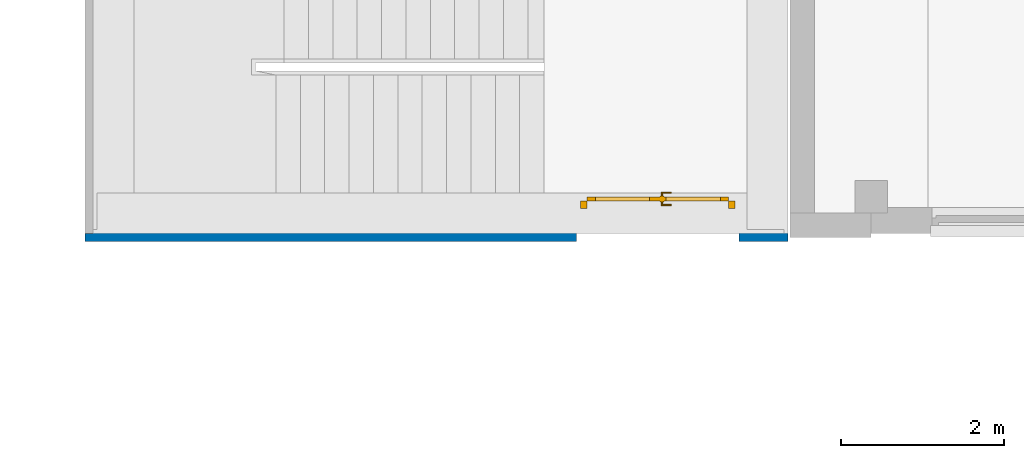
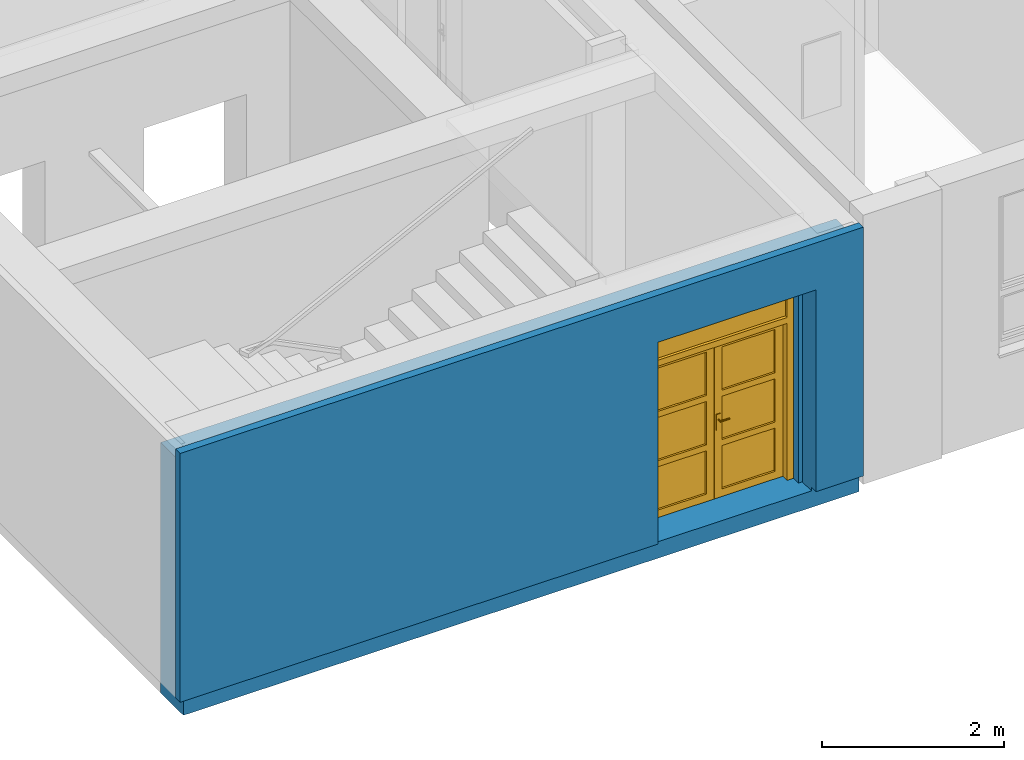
# One storey, part 61 of 140: 1 door, 1 wall, 1 opening.
"""IFC4 building model written with IfcOpenShell, lengths in metres."""

import ifcopenshell
import ifcopenshell.guid

model = None  # the IFC model being written
_history = None  # IfcOwnerHistory: only IFC2X3 demands one
_inside = {}  # id of a spatial element -> (the spatial element, [elements in it])
_under = {}  # id of a project, library or spatial element -> (it, [spatial elements below it])
_declared = {}  # id of a project -> (the project, [libraries it declares])
_typed = {}  # id of a type object -> (the type object, [elements of that type])
_made_of = {}  # id of a material, layer set ... -> (it, [elements and type objects made of it])


def new_model(schema):
    """Start an empty IFC model of exactly this schema.

    Asked for "IFC4X3", IfcOpenShell would pick the latest addendum, in which some entities
    have other attributes; the version numbers below select the first issue.
    IFC2X3 requires an IfcOwnerHistory on every rooted entity: one is made here for all.
    """
    global model, _history
    if schema == "IFC4X3":
        model = ifcopenshell.file(schema_version=(4, 3, 0, 0))
    else:
        model = ifcopenshell.file(schema=schema)
    _inside.clear()
    _under.clear()
    _declared.clear()
    _typed.clear()
    _made_of.clear()
    _history = None
    if model.schema == "IFC2X3":
        org = make("IfcOrganization", Name="unknown")
        user = make(
            "IfcPersonAndOrganization",
            ThePerson=make("IfcPerson", FamilyName="unknown"),
            TheOrganization=org,
        )
        app = make(
            "IfcApplication",
            ApplicationDeveloper=org,
            Version="unknown",
            ApplicationFullName="unknown",
            ApplicationIdentifier="unknown",
        )
        _history = make(
            "IfcOwnerHistory",
            OwningUser=user,
            OwningApplication=app,
            ChangeAction="ADDED",
            CreationDate=0,
        )
    return model


def make(cls, **values):
    """One entity of the class cls with the attributes given. An attribute that is None is left unset."""
    return model.create_entity(
        cls, **{name: value for name, value in values.items() if value is not None}
    )


def entity(cls, *values):
    """Any entity or typed value of the class cls, its attributes in the order of the schema. None: left unset."""
    e = model.create_entity(cls)
    for i, value in enumerate(values):
        if value is not None:
            e[i] = value
    return e


def rooted(cls, **values):
    """An entity with a GlobalId (a new one), such as an element, a storey or a relation."""
    return make(cls, GlobalId=ifcopenshell.guid.new(), OwnerHistory=_history, **values)


def si_unit(unit_type, name, prefix=None):
    """IfcSIUnit, for example si_unit("LENGTHUNIT", "METRE", prefix="MILLI")."""
    return make("IfcSIUnit", UnitType=unit_type, Prefix=prefix, Name=name)


def converted_unit(unit_type, name, factor, base, dimensions=None, offset=None):
    """IfcConversionBasedUnit, such as the inch: factor (a typed value) times the base unit."""
    return make(
        "IfcConversionBasedUnit"
        if offset is None
        else "IfcConversionBasedUnitWithOffset",
        ConversionOffset=offset,
        Dimensions=None
        if dimensions is None
        else entity("IfcDimensionalExponents", *dimensions),
        UnitType=unit_type,
        Name=name,
        ConversionFactor=make(
            "IfcMeasureWithUnit", ValueComponent=factor, UnitComponent=base
        ),
    )


def derived_unit(unit_type, elements):
    """IfcDerivedUnit: a product of units, each with its exponent."""
    return make(
        "IfcDerivedUnit",
        Elements=[
            make("IfcDerivedUnitElement", Unit=unit, Exponent=power)
            for unit, power in elements
        ],
        UnitType=unit_type,
    )


def assignment(units):
    """IfcUnitAssignment: the units of a project."""
    return None if units is None else make("IfcUnitAssignment", Units=units)


def point(xyz):
    """IfcCartesianPoint."""
    return None if xyz is None else make("IfcCartesianPoint", Coordinates=xyz)


def direction(xyz):
    """IfcDirection."""
    return None if xyz is None else make("IfcDirection", DirectionRatios=xyz)


def frame(location, z_axis=None, x_axis=None):
    """IfcAxis2Placement3D, a coordinate frame: its origin and axes. An axis left out is left unset."""
    return make(
        "IfcAxis2Placement3D",
        Location=point(location),
        Axis=direction(z_axis),
        RefDirection=direction(x_axis),
    )


def origin():
    """The frame at (0, 0, 0) with its axes left unset."""
    return frame((0.0, 0.0, 0.0))


def origin_with_axes():
    """The frame at (0, 0, 0) with the z axis (0, 0, 1) and the x axis (1, 0, 0) written out."""
    return frame((0.0, 0.0, 0.0), z_axis=(0.0, 0.0, 1.0), x_axis=(1.0, 0.0, 0.0))


def place(relative_to, where):
    """IfcLocalPlacement: puts the frame where relative to a parent placement (None: the world)."""
    return make(
        "IfcLocalPlacement", PlacementRelTo=relative_to, RelativePlacement=where
    )


def context(
    kind, dimensions, precision=None, world=None, true_north=None, identifier=None
):
    """IfcGeometricRepresentationContext, for example the 3D "Model" context."""
    return make(
        "IfcGeometricRepresentationContext",
        ContextIdentifier=identifier,
        ContextType=kind,
        CoordinateSpaceDimension=dimensions,
        Precision=precision,
        WorldCoordinateSystem=world,
        TrueNorth=true_north,
    )


def subcontext(parent, identifier, kind, view, scale=None):
    """IfcGeometricRepresentationSubContext, for example "Body" below "Model"."""
    return make(
        "IfcGeometricRepresentationSubContext",
        ContextIdentifier=identifier,
        ContextType=kind,
        ParentContext=parent,
        TargetScale=scale,
        TargetView=view,
    )


def project(units=None, contexts=None):
    """IfcProject with its units and contexts."""
    return rooted(
        "IfcProject",
        Name="project",
        RepresentationContexts=contexts,
        UnitsInContext=assignment(units),
    )


def spatial(cls, under=None, at=None, **own):
    """A site, building, storey or space (cls), placed at a placement, below another one or the project."""
    s = rooted(cls, ObjectPlacement=at, **own)
    if under is not None:
        _under.setdefault(under.id(), (under, []))[1].append(s)
    return s


def polyline(points):
    """IfcPolyline through the points."""
    return make("IfcPolyline", Points=[point(p) for p in points])


def outline(outer, holes=None, kind="AREA"):
    """IfcArbitraryClosedProfileDef: a profile drawn as a closed curve; with holes, ...WithVoids."""
    if holes is None:
        return make("IfcArbitraryClosedProfileDef", ProfileType=kind, OuterCurve=outer)
    return make(
        "IfcArbitraryProfileDefWithVoids",
        ProfileType=kind,
        OuterCurve=outer,
        InnerCurves=holes,
    )


def extrude(swept, where, along, depth):
    """IfcExtrudedAreaSolid: the profile swept, set in the frame where, extruded along a direction by depth."""
    return make(
        "IfcExtrudedAreaSolid",
        SweptArea=swept,
        Position=where,
        ExtrudedDirection=direction(along),
        Depth=depth,
    )


def faces_of(points, faces, orient=None, outer=None):
    """IfcFace entities. A face is a list of loops; a loop is a list of indices into points, from 0.

    orient and outer hold one flag for each loop. By default every Orientation is true, the
    first loop of a face is its IfcFaceOuterBound and the others are IfcFaceBound.
    """
    made = []
    for i, loops in enumerate(faces):
        bounds = []
        for j, loop in enumerate(loops):
            is_outer = j == 0 if outer is None else outer[i][j]
            bounds.append(
                make(
                    "IfcFaceOuterBound" if is_outer else "IfcFaceBound",
                    Bound=make("IfcPolyLoop", Polygon=[points[k] for k in loop]),
                    Orientation=True if orient is None else orient[i][j],
                )
            )
        made.append(make("IfcFace", Bounds=bounds))
    return made


def closed_shell(faces, orient=None, outer=None):
    """The faces of one IfcClosedShell. faceted_brep and surface_model build it on their shared points."""
    return ("IfcClosedShell", faces, orient, outer)


def open_shell(faces, orient=None, outer=None):
    """The faces of one IfcOpenShell. surface_model builds it on its shared points."""
    return ("IfcOpenShell", faces, orient, outer)


def faceted_brep(points, faces, orient=None, outer=None, voids=None):
    """IfcFacetedBrep: a solid bounded by flat faces; with voids (closed shells), ...WithVoids."""
    shared = [point(p) for p in points]
    hull = make("IfcClosedShell", CfsFaces=faces_of(shared, faces, orient, outer))
    if voids is None:
        return make("IfcFacetedBrep", Outer=hull)
    return make(
        "IfcFacetedBrepWithVoids",
        Outer=hull,
        Voids=[
            make(cls, CfsFaces=faces_of(shared, fs, o, b)) for cls, fs, o, b in voids
        ],
    )


def surface_model(cls, points, shells):
    """IfcFaceBasedSurfaceModel or IfcShellBasedSurfaceModel (cls): surfaces that need not close."""
    shared = [point(p) for p in points]
    made = [make(c, CfsFaces=faces_of(shared, fs, o, b)) for c, fs, o, b in shells]
    if cls == "IfcFaceBasedSurfaceModel":
        return make(cls, FbsmFaces=made)
    return make(cls, SbsmBoundary=made)


def shape(context_of_items, identifier, shape_type, items):
    """IfcShapeRepresentation: the items that make up one representation, for example the "Body"."""
    return make(
        "IfcShapeRepresentation",
        ContextOfItems=context_of_items,
        RepresentationIdentifier=identifier,
        RepresentationType=shape_type,
        Items=items,
    )


def source(mapping_origin, context_of_items, identifier, shape_type, items):
    """IfcRepresentationMap: a shape defined once, which mapped items show again and again."""
    return make(
        "IfcRepresentationMap",
        MappingOrigin=mapping_origin,
        MappedRepresentation=shape(context_of_items, identifier, shape_type, items),
    )


def transform(
    local_origin,
    x_axis=None,
    y_axis=None,
    z_axis=None,
    scale=None,
    scale2=None,
    scale3=None,
    uniform=True,
):
    """IfcCartesianTransformationOperator3D, or its non-uniform kind. x_axis, y_axis, z_axis: its Axis1, 2, 3."""
    if uniform:
        return make(
            "IfcCartesianTransformationOperator3D",
            Axis1=direction(x_axis),
            Axis2=direction(y_axis),
            LocalOrigin=point(local_origin),
            Scale=scale,
            Axis3=direction(z_axis),
        )
    return make(
        "IfcCartesianTransformationOperator3DnonUniform",
        Axis1=direction(x_axis),
        Axis2=direction(y_axis),
        LocalOrigin=point(local_origin),
        Scale=scale,
        Axis3=direction(z_axis),
        Scale2=scale2,
        Scale3=scale3,
    )


def mapped(mapping_source, mapping_target):
    """IfcMappedItem: shows the shape of a source again, moved by a transform."""
    return make(
        "IfcMappedItem", MappingSource=mapping_source, MappingTarget=mapping_target
    )


def material(Name=None, Category=None):
    """IfcMaterial."""
    return make("IfcMaterial", Name=Name, Category=Category)


def made_of(thing, what):
    """Note that an element or type object is made of a material, layer set ...; save() writes the relation."""
    if what is not None:
        _made_of.setdefault(what.id(), (what, []))[1].append(thing)
    return thing


def type_object(cls, material=None, **own):
    """A type object (cls), such as IfcWallType, which elements share."""
    return made_of(rooted(cls, **own), material)


def element(
    cls,
    number,
    at=None,
    inside=None,
    cuts=None,
    type_object=None,
    material=None,
    context=None,
    identifier="Body",
    shape_type=None,
    held_by="IfcProductDefinitionShape",
    body=None,
    shapes=None,
    **own,
):
    """One element of the class cls, such as IfcWall. Its Tag is "e" and its number.

    at: its placement. inside: the storey or other place that contains it. cuts: it is an
    opening in that element (IfcRelVoidsElement). A single representation is given by context,
    identifier, shape_type and body (its items); several are given by shapes. held_by: the class
    of the entity that holds the representations. save() writes the other relations.
    """
    e = rooted(cls, Tag="e%d" % number, ObjectPlacement=at, **own)
    if body is not None:
        shapes = [shape(context, identifier, shape_type, body)]
    if shapes is not None:
        e.Representation = make(held_by, Representations=shapes)
    if inside is not None:
        _inside.setdefault(inside.id(), (inside, []))[1].append(e)
    if cuts is not None:
        rooted(
            "IfcRelVoidsElement", RelatingBuildingElement=cuts, RelatedOpeningElement=e
        )
    if type_object is not None:
        _typed.setdefault(type_object.id(), (type_object, []))[1].append(e)
    return made_of(e, material)


def fill(opening, filler):
    """IfcRelFillsElement: the door or window that sits in an opening."""
    return rooted(
        "IfcRelFillsElement",
        RelatingOpeningElement=opening,
        RelatedBuildingElement=filler,
    )


def aggregate(whole, parts):
    """IfcRelAggregates: a whole, such as a stair, and the parts it consists of."""
    return rooted("IfcRelAggregates", RelatingObject=whole, RelatedObjects=parts)


def save(model, path):
    """Write the relations noted so far, then the file.

    IfcRelAggregates (storeys below a building ...), IfcRelContainedInSpatialStructure (elements
    in a storey), IfcRelDefinesByType, IfcRelAssociatesMaterial and IfcRelDeclares: one each for
    every whole, place, type object, material and project.
    """
    for whole, parts in _under.values():
        aggregate(whole, parts)
    for where, things in _inside.values():
        rooted(
            "IfcRelContainedInSpatialStructure",
            RelatedElements=things,
            RelatingStructure=where,
        )
    for kind, things in _typed.values():
        rooted("IfcRelDefinesByType", RelatedObjects=things, RelatingType=kind)
    for what, things in _made_of.values():
        rooted("IfcRelAssociatesMaterial", RelatedObjects=things, RelatingMaterial=what)
    for by, libraries in _declared.values():
        rooted("IfcRelDeclares", RelatingContext=by, RelatedDefinitions=libraries)
    model.write(path)


model = new_model("IFC4")

# Units and contexts
model_context = context("Model", 3, precision=1e-05, world=origin())
body_context = subcontext(model_context, "Body", "Model", "MODEL_VIEW")
ifc_project = project(units=[si_unit("LENGTHUNIT", "METRE"), si_unit("AREAUNIT", "SQUARE_METRE"), si_unit("VOLUMEUNIT", "CUBIC_METRE"), si_unit("MASSUNIT", "GRAM", prefix="KILO"), converted_unit("PLANEANGLEUNIT", "DEGREE", entity("IfcPlaneAngleMeasure", 0.0174532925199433), si_unit("PLANEANGLEUNIT", "RADIAN"), dimensions=[0, 0, 0, 0, 0, 0, 0]), derived_unit("THERMALTRANSMITTANCEUNIT", [(si_unit("POWERUNIT", "WATT"), 1), (si_unit("THERMODYNAMICTEMPERATUREUNIT", "KELVIN"), -1), (si_unit("LENGTHUNIT", "METRE"), -2)]), derived_unit("VOLUMETRICFLOWRATEUNIT", [(si_unit("LENGTHUNIT", "METRE"), 3), (converted_unit("TIMEUNIT", "hour", entity("IfcTimeMeasure", 3600.0), si_unit("TIMEUNIT", "SECOND"), dimensions=[0, 0, 1, 0, 0, 0, 0]), -1), (si_unit("LENGTHUNIT", "METRE"), -1)])], contexts=[model_context])

# Site, building, storey
site_placement = place(None, origin())
site = spatial("IfcSite", under=ifc_project, at=site_placement, Name="3. ASŘ", CompositionType="ELEMENT")
building_placement = place(site_placement, origin())
building = spatial("IfcBuilding", under=site, at=building_placement, Name="Pavilon C", CompositionType="ELEMENT")
storey_placement = place(building_placement, origin())
storey = spatial("IfcBuildingStorey", under=building, at=storey_placement, Name="Půdorys 1.NP", CompositionType="ELEMENT", Elevation=0.0)

# Wall, opening, door
ifc_material = material(Name="EPS")
wall_placement = place(storey_placement, frame((-9.67499999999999, 0.250000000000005, -0.22)))
wall = element("IfcWall", 1, at=wall_placement, inside=storey, material=ifc_material, Name="ZDIVO Z CDm", context=body_context, shape_type="Brep", body=[
    faceted_brep([(7.99999999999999, 0.0, 2.97), (8.05, 0.0, 2.97), (8.05, 0.3, 2.97), (7.99999999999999, 0.3, 2.97), (6.09999999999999, 0.0, 2.97), (6.09999999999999, 0.3, 2.97), (6.04999999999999, 0.3, 2.97), (6.04999999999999, 0.0, 2.97), (6.09999999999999, 0.0999999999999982, 0.27), (6.09999999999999, 0.0999999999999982, 0.22), (6.09999999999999, 0.3, 0.22), (6.09999999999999, 0.0, 0.27), (6.04999999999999, 0.0, 0.27), (6.04999999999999, 0.3, 0.22), (6.04999999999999, 0.0999999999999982, 0.22), (6.04999999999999, 0.0999999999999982, 0.27), (8.0, 0.0, 0.27), (0.0, 0.0, 0.27), (0.0, 0.0, 3.6), (8.65, 0.0, 3.6), (8.65, 0.0, 0.27), (8.05, 0.0, 0.27), (0.0, 0.0999999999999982, 3.6), (8.65, 0.0999999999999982, 3.6), (0.0, 0.0999999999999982, 0.27), (0.100000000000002, 0.0999999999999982, 0.27), (8.65, 0.0999999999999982, 3.35), (8.65, 0.599999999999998, 3.35), (8.65, 0.599999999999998, 0.0), (8.65, 0.0999999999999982, 0.0), (8.65, 0.0999999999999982, 0.27), (0.100000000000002, 0.0999999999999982, 3.35), (8.05, 0.0999999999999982, 0.27), (8.05, 0.0999999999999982, 0.22), (8.05, 0.3, 0.22), (7.99999999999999, 0.3, 0.22), (7.99999999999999, 0.0999999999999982, 0.22), (7.99999999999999, 0.0999999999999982, 0.27), (0.100000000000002, 0.599999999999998, 0.0), (0.100000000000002, 0.599999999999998, 3.35), (0.100000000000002, 0.0999999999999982, 0.0)], [[[0, 1, 2, 3]], [[4, 5, 6, 7]], [[8, 9, 10, 5, 4, 11]], [[12, 7, 6, 13, 14, 15]], [[16, 11, 4, 7, 12, 17, 18, 19, 20, 21, 1, 0]], [[18, 22, 23, 19]], [[17, 24, 22, 18]], [[15, 25, 24, 17, 12]], [[26, 27, 28, 29, 30, 20, 19, 23]], [[23, 22, 24, 25, 31, 26]], [[32, 33, 34, 2, 1, 21]], [[21, 20, 30, 32]], [[16, 0, 3, 35, 36, 37]], [[37, 8, 11, 16]], [[34, 33, 36, 35]], [[2, 34, 35, 3]], [[14, 13, 10, 9]], [[5, 10, 13, 6]], [[38, 28, 27, 39]], [[36, 33, 32, 30, 29, 40, 25, 15, 14, 9, 8, 37]], [[25, 40, 38, 39, 31]], [[31, 39, 27, 26]], [[38, 40, 29, 28]]], orient=[[False], [False], [False], [False], [False], [False], [False], [False], [False], [False], [False], [False], [False], [False], [False], [False], [False], [False], [False], [False], [False], [False], [False]]),
])
opening_placement = place(wall_placement, frame((6.09999999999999, 0.0, 0.22), z_axis=(0.0, 1.0, 0.0), x_axis=(0.0, 0.0, 1.0)))
opening = element("IfcOpeningElement", 2, at=opening_placement, cuts=wall, Name="Dveřní otvor", ObjectType="Opening", context=body_context, shape_type="SweptSolid", body=[
    extrude(outline(polyline([(0.0, 1.9), (2.75, 1.9), (2.75, 0.0), (0.0, 0.0), (0.0, 1.9)])), origin_with_axes(), (0.0, 0.0, 1.0), 0.0999999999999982),
    extrude(outline(polyline([(0.0, 1.9), (2.75, 1.9), (2.75, 0.0), (0.0, 0.0), (0.0, 1.9)])), frame((0.0, 0.0, 0.0999999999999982), z_axis=(0.0, 0.0, 1.0), x_axis=(1.0, 0.0, 0.0)), (0.0, 0.0, 1.0), 0.5),
])
door_type = type_object("IfcDoorType", Name="DF01", OperationType="NOTDEFINED", ParameterTakesPrecedence=False, PredefinedType="DOOR")
shared_shape = source(origin_with_axes(), body_context, "Body", "SurfaceModel", [
    surface_model("IfcShellBasedSurfaceModel", [(0.0, 0.0920000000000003, 2.75), (0.0, 0.092, 8.57747943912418e-18), (0.08, 0.092, 8.57747943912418e-18), (0.08, 0.0920000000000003, 2.75), (0.0, 0.0, 1.98442299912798e-17), (0.0, 3.41060513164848e-16, 2.75), (0.08, 3.41060513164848e-16, 2.75), (0.08, 0.0, 1.98442299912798e-17)], [closed_shell([[[0, 1, 2, 3]], [[4, 5, 6, 7]], [[1, 0, 5, 4]], [[2, 1, 4, 7]], [[3, 2, 7, 6]], [[0, 3, 6, 5]]], orient=[[False], [False], [False], [False], [False], [False]])]),
    surface_model("IfcShellBasedSurfaceModel", [(1.82, 0.0920000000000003, 2.75), (1.82, 0.092, 8.57747943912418e-18), (1.9, 0.092, 8.57747943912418e-18), (1.9, 0.0920000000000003, 2.75), (1.82, 0.0, 1.98442299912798e-17), (1.82, 3.41060513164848e-16, 2.75), (1.9, 3.41060513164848e-16, 2.75), (1.9, 0.0, 1.98442299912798e-17)], [closed_shell([[[0, 1, 2, 3]], [[4, 5, 6, 7]], [[1, 0, 5, 4]], [[2, 1, 4, 7]], [[3, 2, 7, 6]], [[0, 3, 6, 5]]], orient=[[False], [False], [False], [False], [False], [False]])]),
    surface_model("IfcShellBasedSurfaceModel", [(0.08, 0.0920000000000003, 2.75), (0.08, 0.0920000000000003, 2.67), (1.82, 0.0920000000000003, 2.67), (1.82, 0.0920000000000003, 2.75), (0.08, 3.26849658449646e-16, 2.67), (0.08, 3.41060513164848e-16, 2.75), (1.82, 3.41060513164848e-16, 2.75), (1.82, 3.26849658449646e-16, 2.67)], [closed_shell([[[0, 1, 2, 3]], [[4, 5, 6, 7]], [[1, 0, 5, 4]], [[2, 1, 4, 7]], [[3, 2, 7, 6]], [[0, 3, 6, 5]]], orient=[[False], [False], [False], [False], [False], [False]])]),
    surface_model("IfcShellBasedSurfaceModel", [(0.08, 0.0920000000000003, 2.18), (0.08, 0.0920000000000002, 2.1), (1.82, 0.0920000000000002, 2.1), (1.82, 0.0920000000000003, 2.18), (0.08, 2.55795384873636e-16, 2.1), (0.08, 2.70006239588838e-16, 2.18), (1.82, 2.70006239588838e-16, 2.18), (1.82, 2.55795384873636e-16, 2.1)], [closed_shell([[[0, 1, 2, 3]], [[4, 5, 6, 7]], [[1, 0, 5, 4]], [[2, 1, 4, 7]], [[3, 2, 7, 6]], [[0, 3, 6, 5]]], orient=[[False], [False], [False], [False], [False], [False]])]),
    surface_model("IfcShellBasedSurfaceModel", [(0.08, 0.0560000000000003, 2.67), (0.08, 0.0560000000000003, 2.18), (1.82, 0.0560000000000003, 2.18), (1.82, 0.0560000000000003, 2.67), (0.08, 0.0360000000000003, 2.18), (0.08, 0.0360000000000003, 2.67), (1.82, 0.0360000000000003, 2.67), (1.82, 0.0360000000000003, 2.18)], [closed_shell([[[0, 1, 2, 3]], [[4, 5, 6, 7]], [[1, 0, 5, 4]], [[2, 1, 4, 7]], [[3, 2, 7, 6]], [[0, 3, 6, 5]]], orient=[[False], [False], [False], [False], [False], [False]])]),
    surface_model("IfcShellBasedSurfaceModel", [(0.08, 0.142, 2.1), (0.08, 0.142, 2.45424544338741e-18), (0.18, 0.142, 2.45424544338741e-18), (0.18, 0.142, 2.1), (0.08, 0.092, 8.57747943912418e-18), (0.08, 0.0920000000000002, 2.1), (0.18, 0.0920000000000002, 2.1), (0.18, 0.092, 8.57747943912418e-18)], [closed_shell([[[0, 1, 2, 3]], [[4, 5, 6, 7]], [[1, 0, 5, 4]], [[2, 1, 4, 7]], [[3, 2, 7, 6]], [[0, 3, 6, 5]]], orient=[[False], [False], [False], [False], [False], [False]])]),
    surface_model("IfcShellBasedSurfaceModel", [(0.8495, 0.142, 2.1), (0.8495, 0.142, 2.45424544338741e-18), (0.9495, 0.142, 2.45424544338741e-18), (0.9495, 0.142, 2.1), (0.8495, 0.092, 8.57747943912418e-18), (0.8495, 0.0920000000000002, 2.1), (0.9495, 0.0920000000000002, 2.1), (0.9495, 0.092, 8.57747943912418e-18)], [closed_shell([[[0, 1, 2, 3]], [[4, 5, 6, 7]], [[1, 0, 5, 4]], [[2, 1, 4, 7]], [[3, 2, 7, 6]], [[0, 3, 6, 5]]], orient=[[False], [False], [False], [False], [False], [False]])]),
    surface_model("IfcShellBasedSurfaceModel", [(0.18, 0.142, 0.1), (0.18, 0.142, 2.45424544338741e-18), (0.8495, 0.142, 2.45424544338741e-18), (0.8495, 0.142, 0.1), (0.18, 0.092, 8.57747943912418e-18), (0.18, 0.092, 0.1), (0.8495, 0.092, 0.1), (0.8495, 0.092, 8.57747943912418e-18)], [closed_shell([[[0, 1, 2, 3]], [[4, 5, 6, 7]], [[1, 0, 5, 4]], [[2, 1, 4, 7]], [[3, 2, 7, 6]], [[0, 3, 6, 5]]], orient=[[False], [False], [False], [False], [False], [False]])]),
    surface_model("IfcShellBasedSurfaceModel", [(0.18, 0.142, 2.1), (0.18, 0.142, 2.0), (0.8495, 0.142, 2.0), (0.8495, 0.142, 2.1), (0.18, 0.0920000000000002, 2.0), (0.18, 0.0920000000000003, 2.1), (0.8495, 0.0920000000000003, 2.1), (0.8495, 0.0920000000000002, 2.0)], [closed_shell([[[0, 1, 2, 3]], [[4, 5, 6, 7]], [[1, 0, 5, 4]], [[2, 1, 4, 7]], [[3, 2, 7, 6]], [[0, 3, 6, 5]]], orient=[[False], [False], [False], [False], [False], [False]])]),
    surface_model("IfcShellBasedSurfaceModel", [(0.9505, 0.142, 2.1), (0.9505, 0.142, 2.45424544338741e-18), (1.0505, 0.142, 2.45424544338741e-18), (1.0505, 0.142, 2.1), (0.9505, 0.092, 8.57747943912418e-18), (0.9505, 0.0920000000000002, 2.1), (1.0505, 0.0920000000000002, 2.1), (1.0505, 0.092, 8.57747943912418e-18)], [closed_shell([[[0, 1, 2, 3]], [[4, 5, 6, 7]], [[1, 0, 5, 4]], [[2, 1, 4, 7]], [[3, 2, 7, 6]], [[0, 3, 6, 5]]], orient=[[False], [False], [False], [False], [False], [False]])]),
    surface_model("IfcShellBasedSurfaceModel", [(1.72, 0.142, 2.1), (1.72, 0.142, 2.45424544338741e-18), (1.82, 0.142, 2.45424544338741e-18), (1.82, 0.142, 2.1), (1.72, 0.092, 8.57747943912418e-18), (1.72, 0.0920000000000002, 2.1), (1.82, 0.0920000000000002, 2.1), (1.82, 0.092, 8.57747943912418e-18)], [closed_shell([[[0, 1, 2, 3]], [[4, 5, 6, 7]], [[1, 0, 5, 4]], [[2, 1, 4, 7]], [[3, 2, 7, 6]], [[0, 3, 6, 5]]], orient=[[False], [False], [False], [False], [False], [False]])]),
    surface_model("IfcShellBasedSurfaceModel", [(1.0505, 0.142, 0.1), (1.0505, 0.142, 2.45424544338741e-18), (1.72, 0.142, 2.45424544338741e-18), (1.72, 0.142, 0.1), (1.0505, 0.092, 8.57747943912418e-18), (1.0505, 0.092, 0.1), (1.72, 0.092, 0.1), (1.72, 0.092, 8.57747943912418e-18)], [closed_shell([[[0, 1, 2, 3]], [[4, 5, 6, 7]], [[1, 0, 5, 4]], [[2, 1, 4, 7]], [[3, 2, 7, 6]], [[0, 3, 6, 5]]], orient=[[False], [False], [False], [False], [False], [False]])]),
    surface_model("IfcShellBasedSurfaceModel", [(1.0505, 0.142, 2.1), (1.0505, 0.142, 2.0), (1.72, 0.142, 2.0), (1.72, 0.142, 2.1), (1.0505, 0.0920000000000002, 2.0), (1.0505, 0.0920000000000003, 2.1), (1.72, 0.0920000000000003, 2.1), (1.72, 0.0920000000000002, 2.0)], [closed_shell([[[0, 1, 2, 3]], [[4, 5, 6, 7]], [[1, 0, 5, 4]], [[2, 1, 4, 7]], [[3, 2, 7, 6]], [[0, 3, 6, 5]]], orient=[[False], [False], [False], [False], [False], [False]])]),
    surface_model("IfcShellBasedSurfaceModel", [(0.9755, 0.0920000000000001, 1.125), (0.9755, 0.0920000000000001, 0.91), (1.0255, 0.0920000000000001, 0.91), (1.0255, 0.0920000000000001, 1.125), (0.9755, 0.0820000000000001, 0.91), (0.9755, 0.0820000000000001, 1.125), (1.0255, 0.0820000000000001, 1.125), (1.0255, 0.0820000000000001, 0.91)], [closed_shell([[[0, 1, 2, 3]], [[4, 5, 6, 7]], [[1, 0, 5, 4]], [[2, 1, 4, 7]], [[3, 2, 7, 6]], [[0, 3, 6, 5]]], orient=[[False], [False], [False], [False], [False], [False]])]),
    surface_model("IfcShellBasedSurfaceModel", [(1.0005, 0.0820000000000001, 1.06), (0.9955, 0.0820000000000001, 1.05866025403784), (0.991839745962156, 0.0820000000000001, 1.055), (0.9905, 0.0820000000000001, 1.05), (0.991839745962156, 0.0820000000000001, 1.045), (0.9955, 0.0820000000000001, 1.04133974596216), (1.0005, 0.0820000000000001, 1.04), (1.0055, 0.0820000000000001, 1.04133974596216), (1.00916025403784, 0.0820000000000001, 1.045), (1.0105, 0.0820000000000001, 1.05), (1.00916025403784, 0.0820000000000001, 1.055), (1.0055, 0.0820000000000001, 1.05866025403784), (1.0005, 0.0420000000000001, 1.06), (0.9955, 0.0370000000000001, 1.05866025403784), (0.991839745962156, 0.0333397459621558, 1.055), (0.9905, 0.0320000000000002, 1.05), (0.991839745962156, 0.0333397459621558, 1.045), (0.9955, 0.0370000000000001, 1.04133974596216), (1.0005, 0.0420000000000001, 1.04), (1.0055, 0.0470000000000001, 1.04133974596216), (1.00916025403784, 0.0506602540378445, 1.045), (1.0105, 0.0520000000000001, 1.05), (1.00916025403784, 0.0506602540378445, 1.055), (1.0055, 0.0470000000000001, 1.05866025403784), (1.1155, 0.0420000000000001, 1.06), (1.1155, 0.0370000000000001, 1.05866025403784), (1.1155, 0.0333397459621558, 1.055), (1.1155, 0.0320000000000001, 1.05), (1.1155, 0.0333397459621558, 1.045), (1.1155, 0.0370000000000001, 1.04133974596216), (1.1155, 0.0420000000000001, 1.04), (1.1155, 0.0470000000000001, 1.04133974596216), (1.1155, 0.0506602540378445, 1.045), (1.1155, 0.0520000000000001, 1.05), (1.1155, 0.0506602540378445, 1.055), (1.1155, 0.0470000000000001, 1.05866025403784)], [open_shell([[[0, 1, 2, 3, 4, 5, 6, 7, 8, 9, 10, 11]], [[0, 12, 13, 1]], [[1, 13, 14, 2]], [[2, 14, 15, 3]], [[3, 15, 16, 4]], [[4, 16, 17, 5]], [[5, 17, 18, 6]], [[6, 18, 19, 7]], [[7, 19, 20, 8]], [[8, 20, 21, 9]], [[9, 21, 22, 10]], [[10, 22, 23, 11]], [[11, 23, 12, 0]], [[12, 24, 25, 13]], [[13, 25, 26, 14]], [[14, 26, 27, 15]], [[15, 27, 28, 16]], [[16, 28, 29, 17]], [[17, 29, 30, 18]], [[18, 30, 31, 19]], [[19, 31, 32, 20]], [[20, 32, 33, 21]], [[21, 33, 34, 22]], [[22, 34, 35, 23]], [[23, 35, 24, 12]]], orient=[[False], [False], [False], [False], [False], [False], [False], [False], [False], [False], [False], [False], [False], [False], [False], [False], [False], [False], [False], [False], [False], [False], [False], [False], [False]])]),
    surface_model("IfcShellBasedSurfaceModel", [(0.9755, 0.142, 1.125), (1.0255, 0.142, 1.125), (1.0255, 0.142, 0.91), (0.9755, 0.142, 0.91), (0.9755, 0.152, 0.91), (1.0255, 0.152, 0.91), (1.0255, 0.152, 1.125), (0.9755, 0.152, 1.125)], [closed_shell([[[0, 1, 2, 3]], [[4, 5, 6, 7]], [[3, 4, 7, 0]], [[2, 5, 4, 3]], [[1, 6, 5, 2]], [[0, 7, 6, 1]]], orient=[[False], [False], [False], [False], [False], [False]])]),
    surface_model("IfcShellBasedSurfaceModel", [(1.0005, 0.152, 1.06), (1.0055, 0.152, 1.05866025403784), (1.00916025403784, 0.152, 1.055), (1.0105, 0.152, 1.05), (1.00916025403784, 0.152, 1.045), (1.0055, 0.152, 1.04133974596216), (1.0005, 0.152, 1.04), (0.9955, 0.152, 1.04133974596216), (0.991839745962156, 0.152, 1.045), (0.9905, 0.152, 1.05), (0.991839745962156, 0.152, 1.055), (0.9955, 0.152, 1.05866025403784), (0.9955, 0.197, 1.05866025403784), (1.0005, 0.192, 1.06), (0.991839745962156, 0.200660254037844, 1.055), (0.9905, 0.202, 1.05), (0.991839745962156, 0.200660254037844, 1.045), (0.9955, 0.197, 1.04133974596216), (1.0005, 0.192, 1.04), (1.0055, 0.187, 1.04133974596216), (1.00916025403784, 0.183339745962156, 1.045), (1.0105, 0.182, 1.05), (1.00916025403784, 0.183339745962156, 1.055), (1.0055, 0.187, 1.05866025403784), (1.1155, 0.197, 1.05866025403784), (1.1155, 0.192, 1.06), (1.1155, 0.200660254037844, 1.055), (1.1155, 0.202, 1.05), (1.1155, 0.200660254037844, 1.045), (1.1155, 0.197, 1.04133974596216), (1.1155, 0.192, 1.04), (1.1155, 0.187, 1.04133974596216), (1.1155, 0.183339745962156, 1.045), (1.1155, 0.182, 1.05), (1.1155, 0.183339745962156, 1.055), (1.1155, 0.187, 1.05866025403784)], [open_shell([[[0, 1, 2, 3, 4, 5, 6, 7, 8, 9, 10, 11]], [[0, 11, 12, 13]], [[11, 10, 14, 12]], [[10, 9, 15, 14]], [[9, 8, 16, 15]], [[8, 7, 17, 16]], [[7, 6, 18, 17]], [[6, 5, 19, 18]], [[5, 4, 20, 19]], [[4, 3, 21, 20]], [[3, 2, 22, 21]], [[2, 1, 23, 22]], [[1, 0, 13, 23]], [[13, 12, 24, 25]], [[12, 14, 26, 24]], [[14, 15, 27, 26]], [[15, 16, 28, 27]], [[16, 17, 29, 28]], [[17, 18, 30, 29]], [[18, 19, 31, 30]], [[19, 20, 32, 31]], [[20, 21, 33, 32]], [[21, 22, 34, 33]], [[22, 23, 35, 34]], [[23, 13, 25, 35]]], orient=[[False], [False], [False], [False], [False], [False], [False], [False], [False], [False], [False], [False], [False], [False], [False], [False], [False], [False], [False], [False], [False], [False], [False], [False], [False]])]),
    surface_model("IfcShellBasedSurfaceModel", [(1.0505, 0.142, 0.76), (1.0505, 0.142, 0.68), (1.72, 0.142, 0.68), (1.72, 0.142, 0.76), (1.0505, 0.0920000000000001, 0.68), (1.0505, 0.0920000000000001, 0.76), (1.72, 0.0920000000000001, 0.76), (1.72, 0.0920000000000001, 0.68)], [closed_shell([[[0, 1, 2, 3]], [[4, 5, 6, 7]], [[1, 0, 5, 4]], [[2, 1, 4, 7]], [[3, 2, 7, 6]], [[0, 3, 6, 5]]], orient=[[False], [False], [False], [False], [False], [False]])]),
    surface_model("IfcShellBasedSurfaceModel", [(1.0505, 0.142, 1.42), (1.0505, 0.142, 1.34), (1.72, 0.142, 1.34), (1.72, 0.142, 1.42), (1.0505, 0.0920000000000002, 1.34), (1.0505, 0.0920000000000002, 1.42), (1.72, 0.0920000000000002, 1.42), (1.72, 0.0920000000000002, 1.34)], [closed_shell([[[0, 1, 2, 3]], [[4, 5, 6, 7]], [[1, 0, 5, 4]], [[2, 1, 4, 7]], [[3, 2, 7, 6]], [[0, 3, 6, 5]]], orient=[[False], [False], [False], [False], [False], [False]])]),
    surface_model("IfcShellBasedSurfaceModel", [(1.0505, 0.117, 0.1), (1.72, 0.117, 0.1), (1.72, 0.117, 0.68), (1.0505, 0.117, 0.68), (1.0505, 0.117, 0.76), (1.72, 0.117, 0.76), (1.72, 0.117, 1.34), (1.0505, 0.117, 1.34), (1.0505, 0.117, 1.42), (1.72, 0.117, 1.42), (1.72, 0.117, 2.0), (1.0505, 0.117, 2.0)], [open_shell([[[0, 1, 2, 3]], [[4, 5, 6, 7]], [[8, 9, 10, 11]]], orient=[[False], [False], [False]])]),
    surface_model("IfcShellBasedSurfaceModel", [(0.18, 0.142, 0.76), (0.18, 0.142, 0.68), (0.8495, 0.142, 0.68), (0.8495, 0.142, 0.76), (0.18, 0.0920000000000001, 0.68), (0.18, 0.0920000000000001, 0.76), (0.8495, 0.0920000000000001, 0.76), (0.8495, 0.0920000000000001, 0.68)], [closed_shell([[[0, 1, 2, 3]], [[4, 5, 6, 7]], [[1, 0, 5, 4]], [[2, 1, 4, 7]], [[3, 2, 7, 6]], [[0, 3, 6, 5]]], orient=[[False], [False], [False], [False], [False], [False]])]),
    surface_model("IfcShellBasedSurfaceModel", [(0.18, 0.142, 1.42), (0.18, 0.142, 1.34), (0.8495, 0.142, 1.34), (0.8495, 0.142, 1.42), (0.18, 0.0920000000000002, 1.34), (0.18, 0.0920000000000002, 1.42), (0.8495, 0.0920000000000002, 1.42), (0.8495, 0.0920000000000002, 1.34)], [closed_shell([[[0, 1, 2, 3]], [[4, 5, 6, 7]], [[1, 0, 5, 4]], [[2, 1, 4, 7]], [[3, 2, 7, 6]], [[0, 3, 6, 5]]], orient=[[False], [False], [False], [False], [False], [False]])]),
    surface_model("IfcShellBasedSurfaceModel", [(0.18, 0.117, 0.1), (0.8495, 0.117, 0.1), (0.8495, 0.117, 0.68), (0.18, 0.117, 0.68), (0.18, 0.117, 0.76), (0.8495, 0.117, 0.76), (0.8495, 0.117, 1.34), (0.18, 0.117, 1.34), (0.18, 0.117, 1.42), (0.8495, 0.117, 1.42), (0.8495, 0.117, 2.0), (0.18, 0.117, 2.0)], [open_shell([[[0, 1, 2, 3]], [[4, 5, 6, 7]], [[8, 9, 10, 11]]], orient=[[False], [False], [False]])]),
])
door_placement = place(opening_placement, frame((0.0, 0.0, 0.408), z_axis=(1.0, 0.0, 0.0), x_axis=(0.0, 1.0, 0.0)))
door = element("IfcDoor", 3, at=door_placement, inside=storey, type_object=door_type, Name="DF01", OverallHeight=2.75, OverallWidth=1.9, context=body_context, shape_type="MappedRepresentation", body=[
    mapped(shared_shape, transform((0.0, 0.0, 0.0), x_axis=(1.0, 0.0, 0.0), y_axis=(0.0, 1.0, 0.0), z_axis=(0.0, 0.0, 1.0), scale=1.0)),
])
fill(opening, door)

save(model, "model.ifc")
